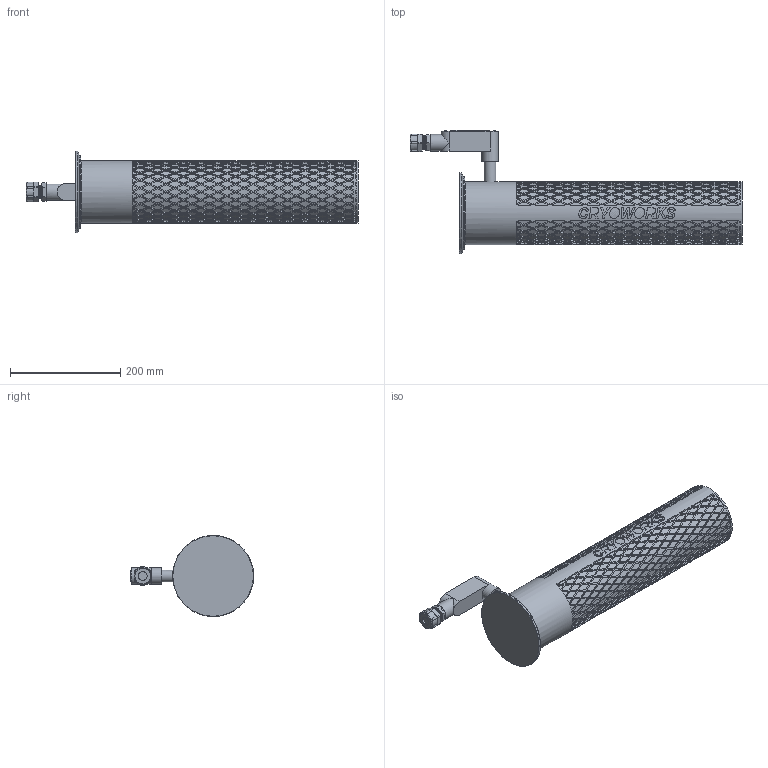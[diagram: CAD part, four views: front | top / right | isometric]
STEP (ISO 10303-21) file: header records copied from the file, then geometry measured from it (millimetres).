
FILE_DESCRIPTION (( 'STEP AP203' ), '1' );
FILE_NAME ('CA03160-TF & CA03165-TF REV A.STEP', '2026-02-09T20:53:48', ( '' ), ( '' ), 'SwSTEP 2.0', 'SolidWorks 2023', '' );
FILE_SCHEMA (( 'CONFIG_CONTROL_DESIGN' ));
Length unit declared in the file: inch
Products named in the file (1): CA03160-TF & CA03165-TF REV A
Bounding box: 602.51 x 223.84 x 147.19 mm (x, y, z)
Volume: 5296364.3 mm3; surface area: 321199.2 mm2
Topology: 1 solids, 12 shells, 3285 faces, 7995 edges, 5313 vertices
Faces by surface type: plane 2453, cylinder 661, bspline 146, cone 14, torus 7, sphere 4
Full cylindrical faces by diameter (mm): 16.002 x1, 16.475 x1, 18.143 x1, 18.979 x6, 21.336 x2, 23.043 x2, 26.67 x1, 30.226 x2, 114.3 x1, 131.572 x1, 147.193 x1
Entity records: 118090 total; most frequent: CARTESIAN_POINT 55759, ORIENTED_EDGE 15782, DIRECTION 9494, EDGE_CURVE 7891, VERTEX_POINT 5258, EDGE_LOOP 3895, AXIS2_PLACEMENT_3D 3332, FACE_OUTER_BOUND 3295
